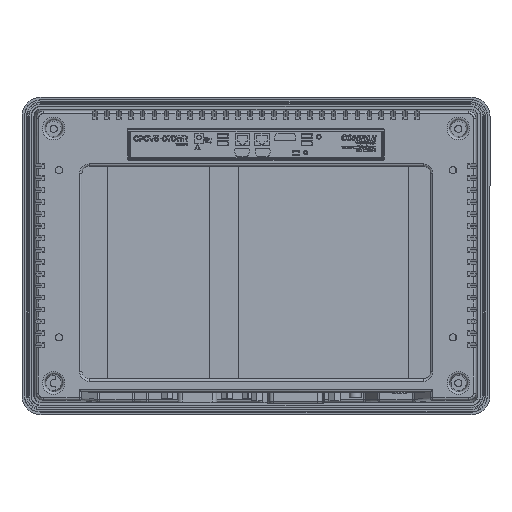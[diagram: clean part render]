
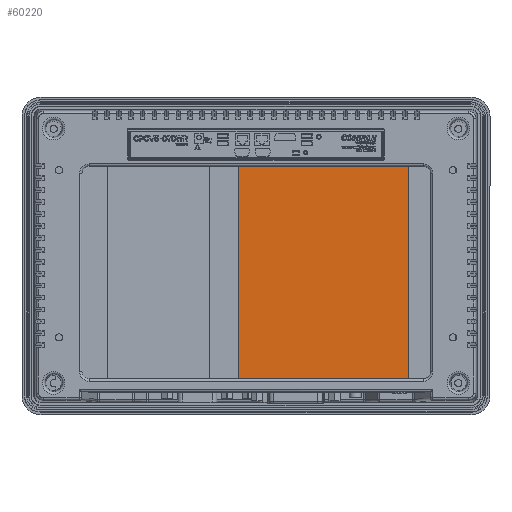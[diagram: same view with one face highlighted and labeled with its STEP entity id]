
A CAD part, top view. The second image highlights one B-rep face of the part: STEP entity #60220.
In plain terms, the highlighted planar face has unit normal (0, 0, 1).
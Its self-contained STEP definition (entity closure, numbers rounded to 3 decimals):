
#51 = DIRECTION ( 'NONE',  ( 0., -1., 0. ) ) ;
#4682 = ORIENTED_EDGE ( 'NONE', *, *, #54484, .T. ) ;
#5717 = VERTEX_POINT ( 'NONE', #78147 ) ;
#7434 = VECTOR ( 'NONE', #70578, 1000. ) ;
#11065 = AXIS2_PLACEMENT_3D ( 'NONE', #34260, #79915, #59785 ) ;
#12652 = CARTESIAN_POINT ( 'NONE',  ( -32.853, 122.003, 53.665 ) ) ;
#13702 = PLANE ( 'NONE',  #11065 ) ;
#14139 = VECTOR ( 'NONE', #51, 1000. ) ;
#14263 = LINE ( 'NONE', #31159, #16759 ) ;
#16759 = VECTOR ( 'NONE', #81847, 1000. ) ;
#17047 = CARTESIAN_POINT ( 'NONE',  ( 38.347, 122.003, 53.665 ) ) ;
#18147 = LINE ( 'NONE', #12652, #14139 ) ;
#18470 = EDGE_CURVE ( 'NONE', #73172, #78267, #14263, .T. ) ;
#25036 = ORIENTED_EDGE ( 'NONE', *, *, #68970, .T. ) ;
#25902 = FACE_OUTER_BOUND ( 'NONE', #67790, .T. ) ;
#28077 = ORIENTED_EDGE ( 'NONE', *, *, #54151, .F. ) ;
#31159 = CARTESIAN_POINT ( 'NONE',  ( -100.853, 122.003, 53.665 ) ) ;
#32050 = LINE ( 'NONE', #71408, #48270 ) ;
#34260 = CARTESIAN_POINT ( 'NONE',  ( -32.853, 122.003, 53.665 ) ) ;
#37518 = CARTESIAN_POINT ( 'NONE',  ( 38.347, 122.003, 53.665 ) ) ;
#44209 = LINE ( 'NONE', #37518, #7434 ) ;
#48270 = VECTOR ( 'NONE', #58465, 1000. ) ;
#52355 = VERTEX_POINT ( 'NONE', #63693 ) ;
#54151 = EDGE_CURVE ( 'NONE', #73172, #52355, #44209, .T. ) ;
#54484 = EDGE_CURVE ( 'NONE', #78267, #5717, #18147, .T. ) ;
#58465 = DIRECTION ( 'NONE',  ( 1., 0., 0. ) ) ;
#59785 = DIRECTION ( 'NONE',  ( 0., 1., 0. ) ) ;
#60220 = ADVANCED_FACE ( 'NONE', ( #25902 ), #13702, .F. ) ;
#63491 = ORIENTED_EDGE ( 'NONE', *, *, #18470, .T. ) ;
#63693 = CARTESIAN_POINT ( 'NONE',  ( 38.347, 19.803, 53.665 ) ) ;
#65221 = CARTESIAN_POINT ( 'NONE',  ( -32.853, 122.003, 53.665 ) ) ;
#67790 = EDGE_LOOP ( 'NONE', ( #63491, #4682, #25036, #28077 ) ) ;
#68970 = EDGE_CURVE ( 'NONE', #5717, #52355, #32050, .T. ) ;
#70578 = DIRECTION ( 'NONE',  ( 0., -1., 0. ) ) ;
#71408 = CARTESIAN_POINT ( 'NONE',  ( -32.853, 19.803, 53.665 ) ) ;
#73172 = VERTEX_POINT ( 'NONE', #17047 ) ;
#78147 = CARTESIAN_POINT ( 'NONE',  ( -32.853, 19.803, 53.665 ) ) ;
#78267 = VERTEX_POINT ( 'NONE', #65221 ) ;
#79915 = DIRECTION ( 'NONE',  ( 0., 0., -1. ) ) ;
#81847 = DIRECTION ( 'NONE',  ( -1., 0., 0. ) ) ;
